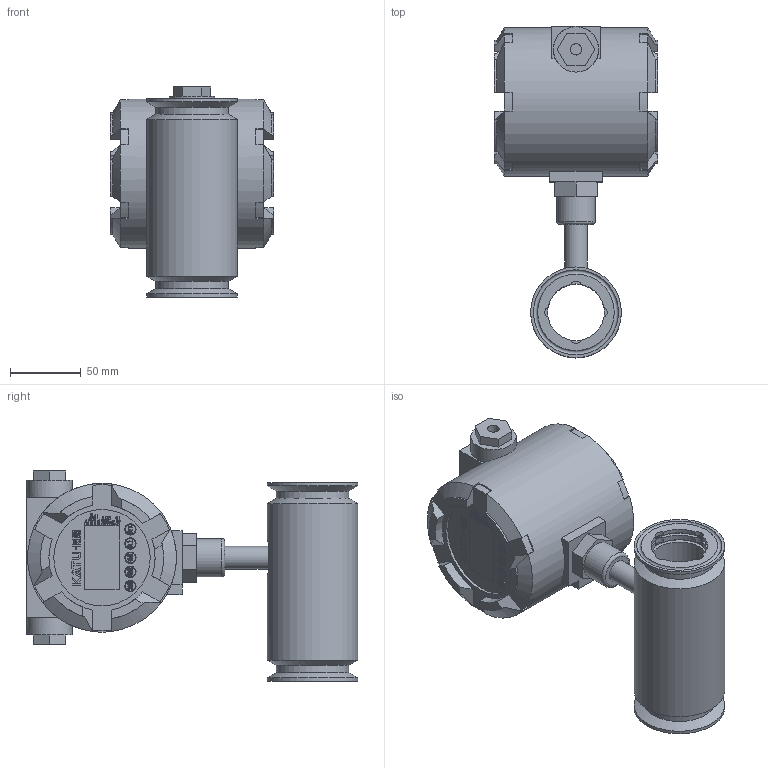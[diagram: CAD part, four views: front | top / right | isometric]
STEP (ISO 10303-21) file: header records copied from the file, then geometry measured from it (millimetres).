
FILE_DESCRIPTION( (''), '2;1');
FILE_NAME( 'QTKC_DN40_tri-clamp_Ex.step', '2024-10-14T13:41:16+08:00', (''), (''), '', '', '');
FILE_SCHEMA (('AUTOMOTIVE_DESIGN { 1 0 10303 214 3 1 1 1 }'));
Length unit declared in the file: millimetre
Products named in the file (1): QTKC DN40_tri-clamp_Ex
Bounding box: 115 x 234 x 148.2 mm (x, y, z)
Volume: 1194180.6 mm3; surface area: 134253.3 mm2
Topology: 4 solids, 4 shells, 1372 faces, 3750 edges, 2496 vertices
Faces by surface type: plane 730, extrusion 504, cylinder 108, cone 20, torus 8, bspline 2
Full cylindrical faces by diameter (mm): 3.3 x1, 8 x2, 16 x1, 16.5 x1, 18.5 x1, 20 x2, 27 x1, 32 x2, 40 x1, 45 x4, 51 x2, 64 x3, 68 x1, 105 x1
Entity records: 46864 total; most frequent: CARTESIAN_POINT 14227, ORIENTED_EDGE 7382, DIRECTION 5085, EDGE_CURVE 3691, VECTOR 2819, VERTEX_POINT 2474, LINE 2315, B_SPLINE_CURVE_WITH_KNOTS 1614
